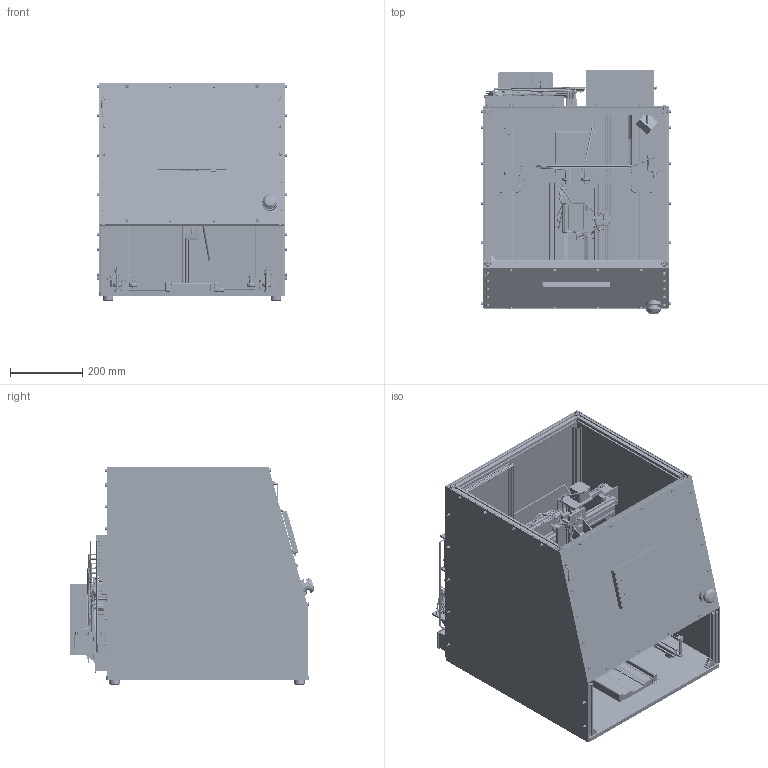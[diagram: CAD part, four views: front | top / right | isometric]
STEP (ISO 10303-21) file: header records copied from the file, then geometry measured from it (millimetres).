
FILE_DESCRIPTION(('Open CASCADE Model'),'2;1');
FILE_NAME('Open CASCADE Shape Model','2026-11-24T00:57:06',('Author'),( 'Open CASCADE'),'Open CASCADE STEP processor 7.9','Open CASCADE 7.9' ,'Unknown');
FILE_SCHEMA(('AUTOMOTIVE_DESIGN { 1 0 10303 214 1 1 1 1 }'));
Length unit declared in the file: millimetre
Products named in the file (417): UltraVena_rig_vscan; wiring; wire_inlet_to_psu; wire_psu_to_fuse_block; wire_fuse_to_12V_converter; wire_fuse_to_5V_converter; wire_12V_to_jetson; wire_servo_converter_to_bus_adapter; wire_hub_to_servo_bus_adapter; wire_5V_to_usb_hub; wire_jetson_to_usb_hub; wire_hub_to_teensy; wire_hub_to_motion_controller; wire_jetson_to_light_box_camera; wire_fuse_to_estop; wire_estop_return_to_bus; wire_estop_bus_to_servo_converter; wire_estop_bus_to_6V_converter; wire_estop_bus_to_motion_controller; wire_5V_to_touchscreen; wire_hub_to_touchscreen_touch; wire_jetson_hdmi_to_touchscreen; wire_hub_to_depth_camera_1; wire_hub_to_depth_camera_2; wire_12V_to_led_strips; wire_led_jumper_back_to_left; wire_led_jumper_back_to_right; wire_led_jumper_left_to_front; wire_controller_to_y_stepper_left; wire_controller_to_y_stepper_right; wire_controller_to_limit_switch_y; wire_teensy_to_pressure_pad_1; wire_teensy_to_pressure_pad_2; wire_teensy_to_pressure_pad_3; wire_teensy_to_pressure_pad_4; wire_teensy_to_pressure_pad_5; wire_teensy_to_pressure_pad_6; wire_teensy_to_wrist_band_socket; wire_controller_to_x_stepper; wire_controller_to_limit_switch_x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
Assembly tree (592 placements, depth 10):
  UltraVena_rig_vscan
    wiring
      wire_inlet_to_psu
      wire_psu_to_fuse_block
      wire_fuse_to_12V_converter
      wire_fuse_to_5V_converter
      wire_12V_to_jetson
      wire_servo_converter_to_bus_adapter
      wire_hub_to_servo_bus_adapter
      wire_5V_to_usb_hub
      wire_jetson_to_usb_hub
      wire_hub_to_teensy
      wire_hub_to_motion_controller
      wire_jetson_to_light_box_camera
      wire_fuse_to_estop
      wire_estop_return_to_bus
      wire_estop_bus_to_servo_converter
      wire_estop_bus_to_6V_converter
      wire_estop_bus_to_motion_controller
      wire_5V_to_touchscreen
      wire_hub_to_touchscreen_touch
      wire_jetson_hdmi_to_touchscreen
      wire_hub_to_depth_camera_1
      wire_hub_to_depth_camera_2
      wire_12V_to_led_strips
      wire_led_jumper_back_to_left
      wire_led_jumper_back_to_right
      wire_led_jumper_left_to_front
      wire_controller_to_y_stepper_left
      wire_controller_to_y_stepper_right
      wire_controller_to_limit_switch_y
      wire_teensy_to_pressure_pad_1
      wire_teensy_to_pressure_pad_2
      wire_teensy_to_pressure_pad_3
      wire_teensy_to_pressure_pad_4
      wire_teensy_to_pressure_pad_5
      wire_teensy_to_pressure_pad_6
      wire_teensy_to_wrist_band_socket
      wire_controller_to_x_stepper
      wire_controller_to_limit_switch_x
      wire_controller_to_z_stepper
      wire_controller_to_limit_switch_z
      wire_teensy_to_load_cell_amp
      wire_load_cell_to_amp
      wire_teensy_to_overtravel_switch
      wire_servo_bus_adapter_to_yaw_servo
      wire_servo_bus_yaw_to_pitch
      wire_servo_bus_pitch_to_roll
      wire_teensy_to_tilt_sensor
      wire_6V_to_marker_actuator
      wire_teensy_to_marker_actuator_signal
      wire_probe_cable_to_display
    electronics_bay
      psu_24V_350W
        psu_24V_350W__case
        psu_24V_350W__internals
        psu_24V_350W__terminal_block
        psu_24V_350W__terminal_screws
      fuse_block
        fuse_block__base
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Bounding box: 526 x 676.93 x 604 mm (x, y, z)
Volume: 13377913.3 mm3; surface area: 6103810.8 mm2
Topology: 3271 solids, 3271 shells, 12684 faces, 21010 edges, 13794 vertices
Faces by surface type: plane 8387, cylinder 2832, sphere 1411, cone 31, bspline 23
Full cylindrical faces by diameter (mm): 2 x677, 2.2 x68, 2.4 x77, 2.5 x16, 2.6 x64, 2.8 x16, 3 x254, 3.2 x20, 3.4 x52, 3.5 x10, 3.6 x64, 3.8 x183, 4 x150, 4.2 x40, 4.4 x27, 4.8 x8, 5 x104, 5.1 x38, 5.2 x141, 5.4 x110, 6 x45, 6.2 x10, 6.4 x2, 6.8 x2, 8 x52, 8.4 x8, 8.5 x90, 10 x40, 10.2 x2, 10.4 x1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
Entity records: 552227 total; most frequent: CARTESIAN_POINT 159232, DIRECTION 75431, LINE 33220, VECTOR 33220, ORIENTED_EDGE 31138, PCURVE 31138, DEFINITIONAL_REPRESENTATION 31138, AXIS2_PLACEMENT_3D 18560
